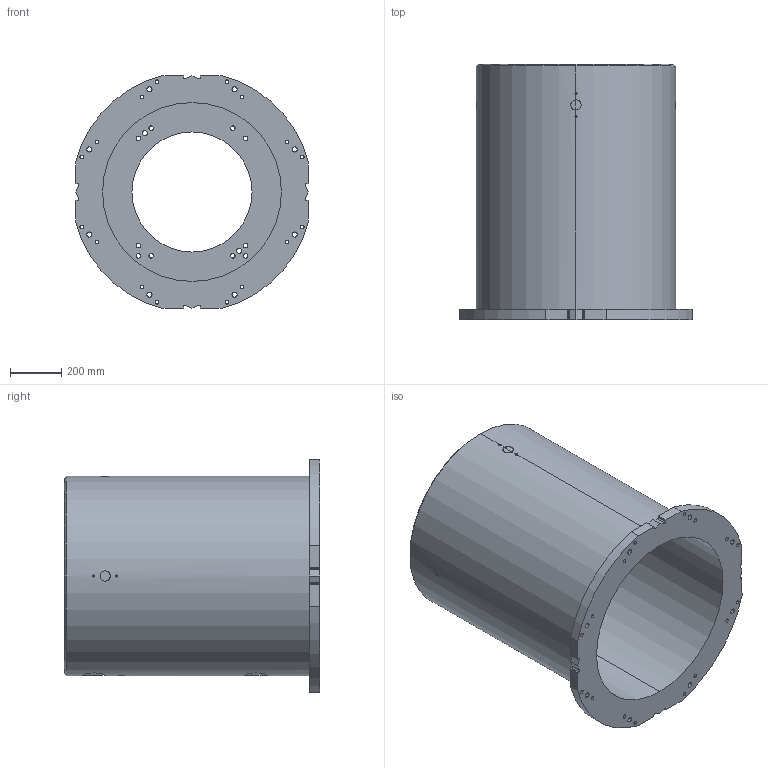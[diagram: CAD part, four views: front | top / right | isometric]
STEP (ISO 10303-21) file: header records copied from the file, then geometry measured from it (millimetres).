
FILE_DESCRIPTION (( 'STEP AP214' ), '1' );
FILE_NAME ('P-1000.STEP', '2025-12-10T13:38:52', ( '' ), ( '' ), 'SwSTEP 2.0', 'SolidWorks 2022', '' );
FILE_SCHEMA (( 'AUTOMOTIVE_DESIGN' ));
Length unit declared in the file: millimetre
Products named in the file (1): P-1000
Bounding box: 910 x 1000 x 910 mm (x, y, z)
Volume: 108603080.9 mm3; surface area: 5713548.1 mm2
Topology: 1 solids, 1 shells, 203 faces, 565 edges, 376 vertices
Faces by surface type: cylinder 149, plane 28, bspline 24, cone 2
Entity records: 12485 total; most frequent: CARTESIAN_POINT 6354, ORIENTED_EDGE 1130, DIRECTION 969, EDGE_CURVE 565, AXIS2_PLACEMENT_3D 378, VERTEX_POINT 376, EDGE_LOOP 289, VECTOR 213
